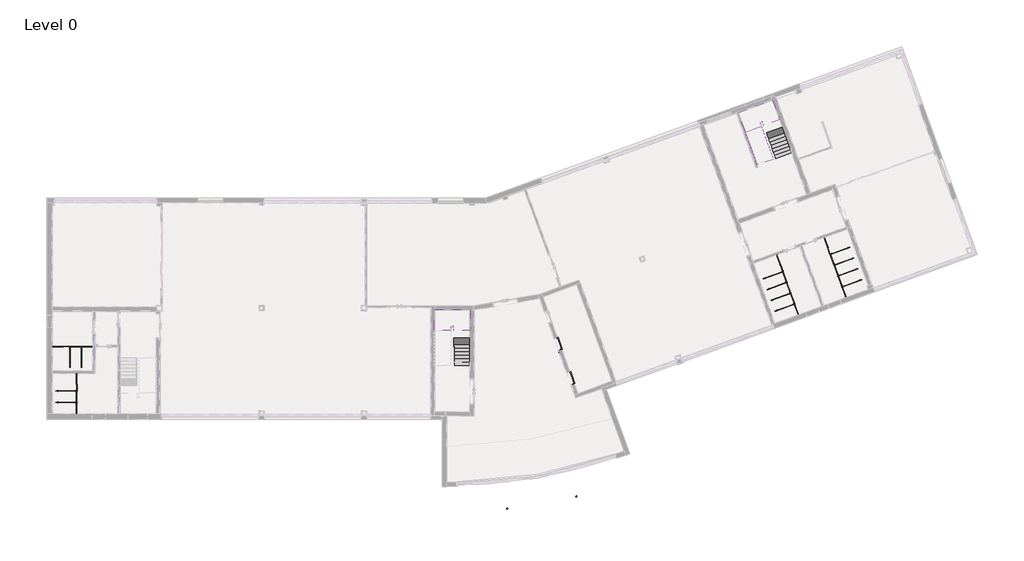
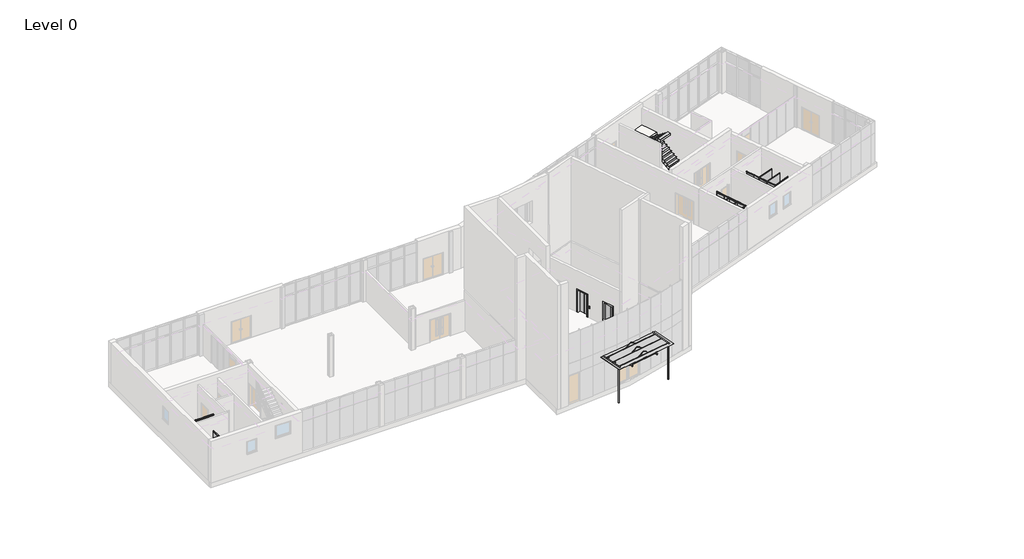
# One storey, part 14 of 14: 20 flow terminals, 3 proxies, 3 stair flights, 2 slabs.
"""IFC4 building model written with IfcOpenShell, lengths in millimetres."""

from ifc_helpers import new_model, si_unit, frame, origin, place, context, project, spatial, polyline, outline, extrude, faceted_brep, transform, mapped, element, save
from components import commercial_canopy_entrance_cladding_canopy_659b45ad, specialty_equipment_lift_assembly_13_person_wide_car_fb916a52, flow_terminal_2100mm_height_12b2e6eb, flow_terminal_2100mm_height_2c32aa6e, flow_terminal_2100mm_height_1f2eed72, flow_terminal_2100mm_height_0595ce71, flow_terminal_2100mm_height_6680c838, plumbing_fixtures_cubicle_corner_end_2100mm_height_8010d271, plumbing_fixtures_cubicle_corner_end_2100mm_height_71efdfa1

model = new_model("IFC4")

# Units and contexts
model_context = context("Model", 3, world=origin())
ifc_project = project(units=[si_unit("LENGTHUNIT", "METRE", prefix="MILLI")], contexts=[model_context])

# Site, building, storey
site = spatial("IfcSite", under=ifc_project)
building = spatial("IfcBuilding", under=site)
storey = spatial("IfcBuildingStorey", under=building, Name="Level 0", Elevation=0.0)

# Proxies
placement = place(None, origin())
commercial_canopy_entrance_cladding_canopy_shape = commercial_canopy_entrance_cladding_canopy_659b45ad(model_context)
element("IfcBuildingElementProxy", 1, Name="Commercial_Canopy_Entrance : Cladding_Canopy", ObjectType="Commercial_Canopy_Entrance : Cladding_Canopy", at=placement, inside=storey, context=model_context, shape_type="MappedRepresentation", body=[
    mapped(commercial_canopy_entrance_cladding_canopy_shape, transform((35218.8424739, -4156.0059595, 0.0), x_axis=(0.984821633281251, 0.1735694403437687, 0.0), y_axis=(-0.1735694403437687, 0.984821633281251, 0.0), z_axis=(0.0, 0.0, 1.0))),
])
specialty_equipment_lift_assembly_13_person_wide_car_shape = specialty_equipment_lift_assembly_13_person_wide_car_fb916a52(model_context)
element("IfcBuildingElementProxy", 2, Name="Specialty_Equipment_Lift_Assembly : 13_Person-Wide_Car", ObjectType="Specialty_Equipment_Lift_Assembly : 13_Person-Wide_Car", at=placement, inside=storey, context=model_context, shape_type="MappedRepresentation", body=[
    mapped(specialty_equipment_lift_assembly_13_person_wide_car_shape, transform((36402.6729068, 5528.4769863, 0.0), x_axis=(-0.34202014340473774, 0.9396926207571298, 0.0), y_axis=(-0.9396926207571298, -0.34202014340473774, 0.0), z_axis=(0.0, 0.0, 1.0))),
])
element("IfcBuildingElementProxy", 3, Name="Specialty_Equipment_Lift_Assembly : 13_Person-Wide_Car", ObjectType="Specialty_Equipment_Lift_Assembly : 13_Person-Wide_Car", at=placement, inside=storey, context=model_context, shape_type="MappedRepresentation", body=[
    mapped(specialty_equipment_lift_assembly_13_person_wide_car_shape, transform((37291.5468022, 3086.3160308, 0.0), x_axis=(-0.34202014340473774, 0.9396926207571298, 0.0), y_axis=(-0.9396926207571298, -0.34202014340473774, 0.0), z_axis=(0.0, 0.0, 1.0))),
])

# Flow terminals
flow_terminal_2100mm_height_shape = flow_terminal_2100mm_height_12b2e6eb(model_context)
element("IfcFlowTerminal", 4, ObjectType="Plumbing_Fixtures_Toilet_Cubicle_End_Adjacent_Wall : 2100mm_Height", at=placement, inside=storey, context=model_context, shape_type="MappedRepresentation", body=[
    mapped(flow_terminal_2100mm_height_shape, transform((50541.393351, 10685.9180507, 0.0), x_axis=(-0.3420201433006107, 0.9396926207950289, 0.0), y_axis=(-0.9396926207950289, -0.3420201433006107, 0.0), z_axis=(0.0, 0.0, 1.0))),
])
element("IfcFlowTerminal", 5, ObjectType="Plumbing_Fixtures_Toilet_Cubicle_End_Adjacent_Wall : 2100mm_Height", at=placement, inside=storey, context=model_context, shape_type="MappedRepresentation", body=[
    mapped(flow_terminal_2100mm_height_shape, transform((383.0, 2814.5689301, 0.0), x_axis=(2.5442148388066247e-11, 1.0, 0.0), y_axis=(-1.0, 2.5442148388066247e-11, 0.0), z_axis=(0.0, 0.0, 1.0))),
])
element("IfcFlowTerminal", 6, ObjectType="Plumbing_Fixtures_Toilet_Cubicle_End_Adjacent_Wall : 2100mm_Height", at=placement, inside=storey, context=model_context, shape_type="MappedRepresentation", body=[
    mapped(flow_terminal_2100mm_height_shape, transform((830.9310712, 3326.5000005, 0.0), x_axis=(-1.0, 2.5443536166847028e-11, 0.0), y_axis=(-2.5443536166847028e-11, -1.0, 0.0), z_axis=(0.0, 0.0, 1.0))),
])
flow_terminal_2100mm_height_2_shape = flow_terminal_2100mm_height_2c32aa6e(model_context)
element("IfcFlowTerminal", 7, ObjectType="Plumbing_Fixtures_Toilet_Cubicle_End_Adjacent_Wall : 2100mm_Height", at=placement, inside=storey, context=model_context, shape_type="MappedRepresentation", body=[
    mapped(flow_terminal_2100mm_height_2_shape, transform((57283.6879051, 13139.9125789, 0.0), x_axis=(-0.3420201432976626, 0.9396926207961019, 0.0), y_axis=(-0.9396926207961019, -0.3420201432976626, 0.0), z_axis=(0.0, 0.0, 1.0))),
])
flow_terminal_2100mm_height_3_shape = flow_terminal_2100mm_height_1f2eed72(model_context)
element("IfcFlowTerminal", 8, ObjectType="Plumbing_Fixtures_Toile_Cubicle_Extension_Panel : 2100mm_Height", at=placement, inside=storey, context=model_context, shape_type="MappedRepresentation", body=[
    mapped(flow_terminal_2100mm_height_3_shape, transform((50976.9218015, 9489.3134675, 0.0), x_axis=(-0.34202014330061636, 0.9396926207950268, 0.0), y_axis=(-0.9396926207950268, -0.34202014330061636, 0.0), z_axis=(0.0, 0.0, 1.0))),
])
flow_terminal_2100mm_height_4_shape = flow_terminal_2100mm_height_0595ce71(model_context)
element("IfcFlowTerminal", 9, ObjectType="Plumbing_Fixtures_Toile_Cubicle_Extension_Panel : 2100mm_Height", at=placement, inside=storey, context=model_context, shape_type="MappedRepresentation", body=[
    mapped(flow_terminal_2100mm_height_4_shape, transform((57719.2163556, 11943.3079956, 0.0), x_axis=(-0.3420201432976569, 0.9396926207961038, 0.0), y_axis=(-0.9396926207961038, -0.3420201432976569, 0.0), z_axis=(0.0, 0.0, 1.0))),
])
flow_terminal_2100mm_height_5_shape = flow_terminal_2100mm_height_6680c838(model_context)
element("IfcFlowTerminal", 10, ObjectType="Plumbing_Fixtures_Toile_Cubicle_Extension_Panel : 2100mm_Height", at=placement, inside=storey, context=model_context, shape_type="MappedRepresentation", body=[
    mapped(flow_terminal_2100mm_height_5_shape, transform((383.0, 1565.0689299, 0.0), x_axis=(0.0, 1.0, 0.0), y_axis=(-1.0, 0.0, 0.0), z_axis=(0.0, 0.0, 1.0))),
])
element("IfcFlowTerminal", 11, ObjectType="Plumbing_Fixtures_Toile_Cubicle_Extension_Panel : 2100mm_Height", at=placement, inside=storey, context=model_context, shape_type="MappedRepresentation", body=[
    mapped(flow_terminal_2100mm_height_5_shape, transform((2080.4310713, 3326.5000005, 0.0), x_axis=(-1.0, 0.0, 0.0), y_axis=(0.0, -1.0, 0.0), z_axis=(0.0, 0.0, 1.0))),
])
plumbing_fixtures_cubicle_corner_end_2100mm_height_shape = plumbing_fixtures_cubicle_corner_end_2100mm_height_8010d271(model_context)
element("IfcFlowTerminal", 12, ObjectType="Plumbing_Fixtures_Cubicle_Corner_End : 2100mm_Height", at=placement, inside=storey, context=model_context, shape_type="MappedRepresentation", body=[
    mapped(plumbing_fixtures_cubicle_corner_end_2100mm_height_shape, transform((58572.2617435, 9599.5850544, 0.0), x_axis=(0.3420201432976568, -0.9396926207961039, 0.0), y_axis=(0.9396926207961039, 0.3420201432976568, 0.0), z_axis=(0.0, 0.0, 1.0))),
])
element("IfcFlowTerminal", 13, ObjectType="Plumbing_Fixtures_Cubicle_Corner_End : 2100mm_Height", at=placement, inside=storey, context=model_context, shape_type="MappedRepresentation", body=[
    mapped(plumbing_fixtures_cubicle_corner_end_2100mm_height_shape, transform((58291.805226, 10370.1330034, 0.0), x_axis=(0.3420201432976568, -0.9396926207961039, 0.0), y_axis=(0.9396926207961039, 0.3420201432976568, 0.0), z_axis=(0.0, 0.0, 1.0))),
])
element("IfcFlowTerminal", 14, ObjectType="Plumbing_Fixtures_Cubicle_Corner_End : 2100mm_Height", at=placement, inside=storey, context=model_context, shape_type="MappedRepresentation", body=[
    mapped(plumbing_fixtures_cubicle_corner_end_2100mm_height_shape, transform((58011.3487085, 11140.6809525, 0.0), x_axis=(0.3420201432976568, -0.9396926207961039, 0.0), y_axis=(0.9396926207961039, 0.3420201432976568, 0.0), z_axis=(0.0, 0.0, 1.0))),
])
element("IfcFlowTerminal", 15, ObjectType="Plumbing_Fixtures_Cubicle_Corner_End : 2100mm_Height", at=placement, inside=storey, context=model_context, shape_type="MappedRepresentation", body=[
    mapped(plumbing_fixtures_cubicle_corner_end_2100mm_height_shape, transform((57730.892191, 11911.2289015, 0.0), x_axis=(0.3420201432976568, -0.9396926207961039, 0.0), y_axis=(0.9396926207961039, 0.3420201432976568, 0.0), z_axis=(0.0, 0.0, 1.0))),
])
plumbing_fixtures_cubicle_corner_end_2100mm_height_2_shape = plumbing_fixtures_cubicle_corner_end_2100mm_height_71efdfa1(model_context)
element("IfcFlowTerminal", 16, ObjectType="Plumbing_Fixtures_Cubicle_Corner_End : 2100mm_Height", at=placement, inside=storey, context=model_context, shape_type="MappedRepresentation", body=[
    mapped(plumbing_fixtures_cubicle_corner_end_2100mm_height_2_shape, transform((51829.9671894, 7145.5905262, 0.0), x_axis=(0.3420201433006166, -0.9396926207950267, 0.0), y_axis=(0.9396926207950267, 0.3420201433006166, 0.0), z_axis=(0.0, 0.0, 1.0))),
])
element("IfcFlowTerminal", 17, ObjectType="Plumbing_Fixtures_Cubicle_Corner_End : 2100mm_Height", at=placement, inside=storey, context=model_context, shape_type="MappedRepresentation", body=[
    mapped(plumbing_fixtures_cubicle_corner_end_2100mm_height_2_shape, transform((51549.5106719, 7916.1384753, 0.0), x_axis=(0.3420201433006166, -0.9396926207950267, 0.0), y_axis=(0.9396926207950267, 0.3420201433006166, 0.0), z_axis=(0.0, 0.0, 1.0))),
])
element("IfcFlowTerminal", 18, ObjectType="Plumbing_Fixtures_Cubicle_Corner_End : 2100mm_Height", at=placement, inside=storey, context=model_context, shape_type="MappedRepresentation", body=[
    mapped(plumbing_fixtures_cubicle_corner_end_2100mm_height_2_shape, transform((51269.0541544, 8686.6864243, 0.0), x_axis=(0.3420201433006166, -0.9396926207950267, 0.0), y_axis=(0.9396926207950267, 0.3420201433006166, 0.0), z_axis=(0.0, 0.0, 1.0))),
])
element("IfcFlowTerminal", 19, ObjectType="Plumbing_Fixtures_Cubicle_Corner_End : 2100mm_Height", at=placement, inside=storey, context=model_context, shape_type="MappedRepresentation", body=[
    mapped(plumbing_fixtures_cubicle_corner_end_2100mm_height_2_shape, transform((50988.5976369, 9457.2343734, 0.0), x_axis=(0.3420201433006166, -0.9396926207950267, 0.0), y_axis=(0.9396926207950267, 0.3420201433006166, 0.0), z_axis=(0.0, 0.0, 1.0))),
])
element("IfcFlowTerminal", 20, ObjectType="Plumbing_Fixtures_Cubicle_Corner_End : 2100mm_Height", at=placement, inside=storey, context=model_context, shape_type="MappedRepresentation", body=[
    mapped(plumbing_fixtures_cubicle_corner_end_2100mm_height_2_shape, transform((383.0, 710.9310711, 0.0), x_axis=(-2.5442148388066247e-11, -1.0, 0.0), y_axis=(1.0, -2.5442148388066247e-11, 0.0), z_axis=(0.0, 0.0, 1.0))),
])
element("IfcFlowTerminal", 21, ObjectType="Plumbing_Fixtures_Cubicle_Corner_End : 2100mm_Height", at=placement, inside=storey, context=model_context, shape_type="MappedRepresentation", body=[
    mapped(plumbing_fixtures_cubicle_corner_end_2100mm_height_2_shape, transform((383.0, 1530.9310711, 0.0), x_axis=(-2.5442148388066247e-11, -1.0, 0.0), y_axis=(1.0, -2.5442148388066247e-11, 0.0), z_axis=(0.0, 0.0, 1.0))),
])
element("IfcFlowTerminal", 22, ObjectType="Plumbing_Fixtures_Cubicle_Corner_End : 2100mm_Height", at=placement, inside=storey, context=model_context, shape_type="MappedRepresentation", body=[
    mapped(plumbing_fixtures_cubicle_corner_end_2100mm_height_2_shape, transform((2934.5689301, 3326.5000005, 0.0), x_axis=(1.0, -2.5443536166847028e-11, 0.0), y_axis=(2.5443536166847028e-11, 1.0, 0.0), z_axis=(0.0, 0.0, 1.0))),
])
element("IfcFlowTerminal", 23, ObjectType="Plumbing_Fixtures_Cubicle_Corner_End : 2100mm_Height", at=placement, inside=storey, context=model_context, shape_type="MappedRepresentation", body=[
    mapped(plumbing_fixtures_cubicle_corner_end_2100mm_height_2_shape, transform((2114.5689301, 3326.5000005, 0.0), x_axis=(1.0, -2.5443536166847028e-11, 0.0), y_axis=(2.5443536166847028e-11, 1.0, 0.0), z_axis=(0.0, 0.0, 1.0))),
])

# Slabs
element("IfcSlab", 24, ObjectType="200mm_Thickness", at=placement, inside=storey, context=model_context, shape_type="SolidModel", body=[
    faceted_brep([(29052.2000029, 6263.2000006, 1949.0), (30252.200003, 6263.2000006, 1949.0), (30252.200003, 6490.4719159, 1949.0), (30252.200003, 7763.2000004, 1949.0), (27662.2000031, 7763.2000004, 1949.0), (27662.2000031, 6285.9280852, 1949.0), (27662.2000031, 6263.2000006, 1949.0), (28862.2000029, 6263.2000006, 1949.0), (28862.2000029, 6285.9280852, 1949.0), (28862.2000029, 6563.2000006, 1949.0), (29052.2000029, 6563.2000006, 1949.0), (29052.2000029, 6490.4719159, 1949.0), (29052.2000029, 6263.2000006, 1587.8435509), (29052.2000029, 6263.2000006, 1771.7272727), (29052.2000029, 6563.2000006, 1749.0), (29052.2000029, 6490.4719159, 1749.0), (30252.200003, 6263.2000006, 1771.7272727), (30252.200003, 6263.2000006, 1587.8435509), (30252.200003, 6490.4719159, 1749.0), (30252.200003, 7763.2000004, 1749.0), (28862.2000029, 6263.2000006, 1765.1162782), (28862.2000029, 6285.9280852, 1749.0), (28862.2000029, 6563.2000006, 1749.0), (27662.2000031, 6285.9280852, 1749.0), (27662.2000031, 7763.2000004, 1749.0), (27662.2000031, 6263.2000006, 1765.1162782)], [[[0, 1, 2, 3, 4, 5, 6, 7, 8, 9, 10, 11]], [[12, 13, 0, 11, 10, 14, 15]], [[1, 16, 17, 18, 19, 3, 2]], [[7, 20, 21, 22, 9, 8]], [[18, 15, 14, 22, 21, 23, 24, 19]], [[15, 18, 17, 12]], [[23, 21, 20, 25]], [[1, 0, 13, 12, 17, 16]], [[4, 3, 19, 24]], [[4, 24, 23, 25, 6, 5]], [[7, 6, 25, 20]], [[10, 9, 22, 14]]]),
    extrude(outline(polyline([(29052.2000029, 6263.2000006), (29052.2000029, 6563.2000006), (28862.2000029, 6563.2000006), (28862.2000029, 6263.2000006), (27662.2000031, 6263.2000006), (27662.2000031, 7763.2000004), (30252.200003, 7763.2000004), (30252.200003, 6263.2000006), (29052.2000029, 6263.2000006)])), frame((0.0, 0.0, 1949.0), z_axis=(0.0, 0.0, 1.0), x_axis=(1.0, 0.0, 0.0)), (0.0, 0.0, 1.0), 1.0),
])
element("IfcSlab", 25, ObjectType="200mm_Thickness", at=placement, inside=storey, context=model_context, shape_type="SolidModel", body=[
    faceted_brep([(51174.021156, 20890.1085605, 1949.0), (52301.652301, 21300.5327324, 1949.0), (52223.920728, 21514.0984742, 1949.0), (51788.6220861, 22710.0716635, 1949.0), (49354.8181983, 21824.2394924, 1949.0), (49860.0749505, 20436.0579748, 1949.0), (49867.8484132, 20414.7005613, 1949.0), (50995.479558, 20825.1247332, 1949.0), (50987.7060952, 20846.4821467, 1949.0), (50892.873515, 21107.0325195, 1949.0), (51071.415113, 21172.0163467, 1949.0), (51096.2895829, 21103.6743022, 1949.0), (51174.021156, 20890.1085605, 1587.8435509), (51174.021156, 20890.1085605, 1771.7272727), (51071.415113, 21172.0163467, 1749.0), (51096.2895829, 21103.6743022, 1749.0), (52301.652301, 21300.5327324, 1771.7272727), (52301.652301, 21300.5327324, 1587.8435509), (52223.920728, 21514.0984742, 1749.0), (51788.6220861, 22710.0716635, 1749.0), (50995.479558, 20825.1247332, 1765.1162782), (50987.7060952, 20846.4821467, 1749.0), (50892.873515, 21107.0325195, 1749.0), (49860.0749505, 20436.0579748, 1749.0), (49354.8181983, 21824.2394924, 1749.0), (49867.8484132, 20414.7005613, 1765.1162782)], [[[0, 1, 2, 3, 4, 5, 6, 7, 8, 9, 10, 11]], [[12, 13, 0, 11, 10, 14, 15]], [[1, 16, 17, 18, 19, 3, 2]], [[7, 20, 21, 22, 9, 8]], [[18, 15, 14, 22, 21, 23, 24, 19]], [[15, 18, 17, 12]], [[23, 21, 20, 25]], [[1, 0, 13, 12, 17, 16]], [[4, 3, 19, 24]], [[4, 24, 23, 25, 6, 5]], [[7, 6, 25, 20]], [[10, 9, 22, 14]]]),
    extrude(outline(polyline([(51174.021156, 20890.1085605), (51071.415113, 21172.0163467), (50892.873515, 21107.0325195), (50995.479558, 20825.1247332), (49867.8484132, 20414.7005613), (49354.8181983, 21824.2394924), (51788.6220861, 22710.0716635), (52301.652301, 21300.5327324), (51174.021156, 20890.1085605)])), frame((0.0, 0.0, 1949.0), z_axis=(0.0, 0.0, 1.0), x_axis=(1.0, 0.0, 0.0)), (0.0, 0.0, 1.0), 1.0),
])

# Stair flights
element("IfcStairFlight", 26, ObjectType="1mm_Tread-150mm_Depth", at=placement, inside=storey, context=model_context, shape_type="SolidModel", body=[
    faceted_brep([(29052.2000029, 4013.2000006, 176.2727273), (29052.2000029, 3763.2000006, 176.2727273), (30252.200003, 3763.2000006, 176.2727273), (30252.200003, 4013.2000006, 176.2727273), (29052.2000029, 4013.2000006, 0.0), (29052.2000029, 3763.2000006, 0.0), (30252.200003, 3763.2000006, 0.0), (30252.200003, 4013.2000006, 0.0), (29052.2000029, 4263.2000006, 353.5454545), (29052.2000029, 4013.2000006, 353.5454545), (30252.200003, 4013.2000006, 353.5454545), (30252.200003, 4263.2000006, 353.5454545), (29052.2000029, 4263.2000006, 169.6617328), (29052.2000029, 4023.9334544, 0.0), (30252.200003, 4023.9334544, 0.0), (30252.200003, 4263.2000006, 169.6617328), (29052.2000029, 4513.2000006, 530.8181818), (29052.2000029, 4263.2000006, 530.8181818), (30252.200003, 4263.2000006, 530.8181818), (30252.200003, 4513.2000006, 530.8181818), (29052.2000029, 4513.2000006, 346.93446), (30252.200003, 4513.2000006, 346.93446), (29052.2000029, 4763.2000006, 708.0909091), (29052.2000029, 4513.2000006, 708.0909091), (30252.200003, 4513.2000006, 708.0909091), (30252.200003, 4763.2000006, 708.0909091), (29052.2000029, 4763.2000006, 524.2071873), (30252.200003, 4763.2000006, 524.2071873), (29052.2000029, 5013.2000006, 885.3636364), (29052.2000029, 4763.2000006, 885.3636364), (30252.200003, 4763.2000006, 885.3636364), (30252.200003, 5013.2000006, 885.3636364), (29052.2000029, 5013.2000006, 701.4799146), (30252.200003, 5013.2000006, 701.4799146), (29052.2000029, 5263.2000006, 1062.6363636), (29052.2000029, 5013.2000006, 1062.6363636), (30252.200003, 5013.2000006, 1062.6363636), (30252.200003, 5263.2000006, 1062.6363636), (29052.2000029, 5263.2000006, 878.7526418), (30252.200003, 5263.2000006, 878.7526418), (29052.2000029, 5513.2000006, 1239.9090909), (29052.2000029, 5263.2000006, 1239.9090909), (30252.200003, 5263.2000006, 1239.9090909), (30252.200003, 5513.2000006, 1239.9090909), (29052.2000029, 5513.2000006, 1056.0253691), (30252.200003, 5513.2000006, 1056.0253691), (29052.2000029, 5763.2000006, 1417.1818182), (29052.2000029, 5513.2000006, 1417.1818182), (30252.200003, 5513.2000006, 1417.1818182), (30252.200003, 5763.2000006, 1417.1818182), (29052.2000029, 5763.2000006, 1233.2980964), (30252.200003, 5763.2000006, 1233.2980964), (29052.2000029, 6013.2000006, 1594.4545455), (29052.2000029, 5763.2000006, 1594.4545455), (30252.200003, 5763.2000006, 1594.4545455), (30252.200003, 6013.2000006, 1594.4545455), (29052.2000029, 6013.2000006, 1410.5708237), (30252.200003, 6013.2000006, 1410.5708237), (29052.2000029, 6263.2000006, 1587.8435509), (30252.200003, 6263.2000006, 1587.8435509), (29052.2000029, 6263.2000006, 1771.7272727), (29052.2000029, 6013.2000006, 1771.7272727), (30252.200003, 6013.2000006, 1771.7272727), (30252.200003, 6263.2000006, 1771.7272727)], [[[0, 1, 2, 3]], [[1, 0, 4, 5]], [[2, 1, 5, 6]], [[3, 2, 6, 7]], [[8, 9, 10, 11]], [[4, 0, 9, 8, 12, 13]], [[0, 3, 10, 9]], [[3, 7, 14, 15, 11, 10]], [[16, 17, 18, 19]], [[17, 16, 20, 12, 8]], [[8, 11, 18, 17]], [[19, 18, 11, 15, 21]], [[22, 23, 24, 25]], [[23, 22, 26, 20, 16]], [[16, 19, 24, 23]], [[25, 24, 19, 21, 27]], [[28, 29, 30, 31]], [[29, 28, 32, 26, 22]], [[22, 25, 30, 29]], [[31, 30, 25, 27, 33]], [[34, 35, 36, 37]], [[35, 34, 38, 32, 28]], [[28, 31, 36, 35]], [[37, 36, 31, 33, 39]], [[40, 41, 42, 43]], [[41, 40, 44, 38, 34]], [[34, 37, 42, 41]], [[43, 42, 37, 39, 45]], [[46, 47, 48, 49]], [[47, 46, 50, 44, 40]], [[40, 43, 48, 47]], [[49, 48, 43, 45, 51]], [[52, 53, 54, 55]], [[53, 52, 56, 50, 46]], [[46, 49, 54, 53]], [[55, 54, 49, 51, 57]], [[5, 4, 13, 14, 7, 6]], [[14, 13, 12, 20, 26, 32, 38, 44, 50, 56, 58, 59, 57, 51, 45, 39, 33, 27, 21, 15]], [[60, 61, 62, 63]], [[61, 60, 58, 56, 52]], [[52, 55, 62, 61]], [[63, 62, 55, 57, 59]], [[60, 63, 59, 58]]]),
    extrude(outline(polyline([(29052.2000029, 4013.2000006), (30252.200003, 4013.2000006), (30252.200003, 3763.2000006), (29052.2000029, 3763.2000006), (29052.2000029, 4013.2000006)])), frame((0.0, 0.0, 176.2727273), z_axis=(0.0, 0.0, 1.0), x_axis=(1.0, 0.0, 0.0)), (0.0, 0.0, 1.0), 1.0),
    extrude(outline(polyline([(29052.2000029, 4263.2000006), (30252.200003, 4263.2000006), (30252.200003, 4013.2000006), (29052.2000029, 4013.2000006), (29052.2000029, 4263.2000006)])), frame((0.0, 0.0, 353.5454545), z_axis=(0.0, 0.0, 1.0), x_axis=(1.0, 0.0, 0.0)), (0.0, 0.0, 1.0), 1.0),
    extrude(outline(polyline([(29052.2000029, 4513.2000006), (30252.200003, 4513.2000006), (30252.200003, 4263.2000006), (29052.2000029, 4263.2000006), (29052.2000029, 4513.2000006)])), frame((0.0, 0.0, 530.8181818), z_axis=(0.0, 0.0, 1.0), x_axis=(1.0, 0.0, 0.0)), (0.0, 0.0, 1.0), 1.0),
    extrude(outline(polyline([(29052.2000029, 4763.2000006), (30252.200003, 4763.2000006), (30252.200003, 4513.2000006), (29052.2000029, 4513.2000006), (29052.2000029, 4763.2000006)])), frame((0.0, 0.0, 708.0909091), z_axis=(0.0, 0.0, 1.0), x_axis=(1.0, 0.0, 0.0)), (0.0, 0.0, 1.0), 1.0),
    extrude(outline(polyline([(29052.2000029, 5013.2000006), (30252.200003, 5013.2000006), (30252.200003, 4763.2000006), (29052.2000029, 4763.2000006), (29052.2000029, 5013.2000006)])), frame((0.0, 0.0, 885.3636364), z_axis=(0.0, 0.0, 1.0), x_axis=(1.0, 0.0, 0.0)), (0.0, 0.0, 1.0), 1.0),
    extrude(outline(polyline([(29052.2000029, 5263.2000006), (30252.200003, 5263.2000006), (30252.200003, 5013.2000006), (29052.2000029, 5013.2000006), (29052.2000029, 5263.2000006)])), frame((0.0, 0.0, 1062.6363636), z_axis=(0.0, 0.0, 1.0), x_axis=(1.0, 0.0, 0.0)), (0.0, 0.0, 1.0), 1.0),
    extrude(outline(polyline([(29052.2000029, 5513.2000006), (30252.200003, 5513.2000006), (30252.200003, 5263.2000006), (29052.2000029, 5263.2000006), (29052.2000029, 5513.2000006)])), frame((0.0, 0.0, 1239.9090909), z_axis=(0.0, 0.0, 1.0), x_axis=(1.0, 0.0, 0.0)), (0.0, 0.0, 1.0), 1.0),
    extrude(outline(polyline([(29052.2000029, 5763.2000006), (30252.200003, 5763.2000006), (30252.200003, 5513.2000006), (29052.2000029, 5513.2000006), (29052.2000029, 5763.2000006)])), frame((0.0, 0.0, 1417.1818182), z_axis=(0.0, 0.0, 1.0), x_axis=(1.0, 0.0, 0.0)), (0.0, 0.0, 1.0), 1.0),
    extrude(outline(polyline([(29052.2000029, 6013.2000006), (30252.200003, 6013.2000006), (30252.200003, 5763.2000006), (29052.2000029, 5763.2000006), (29052.2000029, 6013.2000006)])), frame((0.0, 0.0, 1594.4545455), z_axis=(0.0, 0.0, 1.0), x_axis=(1.0, 0.0, 0.0)), (0.0, 0.0, 1.0), 1.0),
    extrude(outline(polyline([(29052.2000029, 6263.2000006), (30252.200003, 6263.2000006), (30252.200003, 6013.2000006), (29052.2000029, 6013.2000006), (29052.2000029, 6263.2000006)])), frame((0.0, 0.0, 1771.7272727), z_axis=(0.0, 0.0, 1.0), x_axis=(1.0, 0.0, 0.0)), (0.0, 0.0, 1.0), 1.0),
])
element("IfcStairFlight", 27, ObjectType="1mm_Tread-150mm_Depth", at=placement, inside=storey, context=model_context, shape_type="SolidModel", body=[
    faceted_brep([(51943.5664784, 18775.8001637, 176.2727273), (52029.0715142, 18540.8770085, 176.2727273), (53156.7026593, 18951.3011804, 176.2727273), (53071.1976234, 19186.2243356, 176.2727273), (51943.5664784, 18775.8001637, 0.0), (52029.0715142, 18540.8770085, 0.0), (53156.7026593, 18951.3011804, 0.0), (53071.1976234, 19186.2243356, 0.0), (51858.0614426, 19010.7233189, 353.5454545), (51943.5664784, 18775.8001637, 353.5454545), (53071.1976234, 19186.2243356, 353.5454545), (52985.6925876, 19421.1474908, 353.5454545), (51858.0614426, 19010.7233189, 169.6617328), (51939.895421, 18785.886311, 0.0), (53067.526566, 19196.310483, 0.0), (52985.6925876, 19421.1474908, 169.6617328), (51772.5564067, 19245.6464741, 530.8181818), (51858.0614426, 19010.7233189, 530.8181818), (52985.6925876, 19421.1474908, 530.8181818), (52900.1875518, 19656.070646, 530.8181818), (51772.5564067, 19245.6464741, 346.93446), (52900.1875518, 19656.070646, 346.93446), (51687.0513709, 19480.5696293, 708.0909091), (51772.5564067, 19245.6464741, 708.0909091), (52900.1875518, 19656.070646, 708.0909091), (52814.682516, 19890.9938012, 708.0909091), (51687.0513709, 19480.5696293, 524.2071873), (52814.682516, 19890.9938012, 524.2071873), (51601.5463351, 19715.4927845, 885.3636364), (51687.0513709, 19480.5696293, 885.3636364), (52814.682516, 19890.9938012, 885.3636364), (52729.1774801, 20125.9169564, 885.3636364), (51601.5463351, 19715.4927845, 701.4799146), (52729.1774801, 20125.9169564, 701.4799146), (51516.0412993, 19950.4159397, 1062.6363636), (51601.5463351, 19715.4927845, 1062.6363636), (52729.1774801, 20125.9169564, 1062.6363636), (52643.6724443, 20360.8401116, 1062.6363636), (51516.0412993, 19950.4159397, 878.7526418), (52643.6724443, 20360.8401116, 878.7526418), (51430.5362634, 20185.3390949, 1239.9090909), (51516.0412993, 19950.4159397, 1239.9090909), (52643.6724443, 20360.8401116, 1239.9090909), (52558.1674085, 20595.7632668, 1239.9090909), (51430.5362634, 20185.3390949, 1056.0253691), (52558.1674085, 20595.7632668, 1056.0253691), (51345.0312276, 20420.2622501, 1417.1818182), (51430.5362634, 20185.3390949, 1417.1818182), (52558.1674085, 20595.7632668, 1417.1818182), (52472.6623727, 20830.686422, 1417.1818182), (51345.0312276, 20420.2622501, 1233.2980964), (52472.6623727, 20830.686422, 1233.2980964), (51259.5261918, 20655.1854053, 1594.4545455), (51345.0312276, 20420.2622501, 1594.4545455), (52472.6623727, 20830.686422, 1594.4545455), (52387.1573368, 21065.6095772, 1594.4545455), (51259.5261918, 20655.1854053, 1410.5708237), (52387.1573368, 21065.6095772, 1410.5708237), (51174.021156, 20890.1085605, 1587.8435509), (52301.652301, 21300.5327324, 1587.8435509), (51174.021156, 20890.1085605, 1771.7272727), (51259.5261918, 20655.1854053, 1771.7272727), (52387.1573368, 21065.6095772, 1771.7272727), (52301.652301, 21300.5327324, 1771.7272727)], [[[0, 1, 2, 3]], [[1, 0, 4, 5]], [[2, 1, 5, 6]], [[3, 2, 6, 7]], [[8, 9, 10, 11]], [[4, 0, 9, 8, 12, 13]], [[0, 3, 10, 9]], [[3, 7, 14, 15, 11, 10]], [[16, 17, 18, 19]], [[17, 16, 20, 12, 8]], [[8, 11, 18, 17]], [[19, 18, 11, 15, 21]], [[22, 23, 24, 25]], [[23, 22, 26, 20, 16]], [[16, 19, 24, 23]], [[25, 24, 19, 21, 27]], [[28, 29, 30, 31]], [[29, 28, 32, 26, 22]], [[22, 25, 30, 29]], [[31, 30, 25, 27, 33]], [[34, 35, 36, 37]], [[35, 34, 38, 32, 28]], [[28, 31, 36, 35]], [[37, 36, 31, 33, 39]], [[40, 41, 42, 43]], [[41, 40, 44, 38, 34]], [[34, 37, 42, 41]], [[43, 42, 37, 39, 45]], [[46, 47, 48, 49]], [[47, 46, 50, 44, 40]], [[40, 43, 48, 47]], [[49, 48, 43, 45, 51]], [[52, 53, 54, 55]], [[53, 52, 56, 50, 46]], [[46, 49, 54, 53]], [[55, 54, 49, 51, 57]], [[5, 4, 13, 14, 7, 6]], [[14, 13, 12, 20, 26, 32, 38, 44, 50, 56, 58, 59, 57, 51, 45, 39, 33, 27, 21, 15]], [[60, 61, 62, 63]], [[61, 60, 58, 56, 52]], [[52, 55, 62, 61]], [[63, 62, 55, 57, 59]], [[60, 63, 59, 58]]]),
    extrude(outline(polyline([(51943.5664784, 18775.8001637), (53071.1976234, 19186.2243356), (53156.7026593, 18951.3011804), (52029.0715142, 18540.8770085), (51943.5664784, 18775.8001637)])), frame((0.0, 0.0, 176.2727273), z_axis=(0.0, 0.0, 1.0), x_axis=(1.0, 0.0, 0.0)), (0.0, 0.0, 1.0), 1.0),
    extrude(outline(polyline([(51858.0614426, 19010.7233189), (52985.6925876, 19421.1474908), (53071.1976234, 19186.2243356), (51943.5664784, 18775.8001637), (51858.0614426, 19010.7233189)])), frame((0.0, 0.0, 353.5454545), z_axis=(0.0, 0.0, 1.0), x_axis=(1.0, 0.0, 0.0)), (0.0, 0.0, 1.0), 1.0),
    extrude(outline(polyline([(51772.5564067, 19245.6464741), (52900.1875518, 19656.070646), (52985.6925876, 19421.1474908), (51858.0614426, 19010.7233189), (51772.5564067, 19245.6464741)])), frame((0.0, 0.0, 530.8181818), z_axis=(0.0, 0.0, 1.0), x_axis=(1.0, 0.0, 0.0)), (0.0, 0.0, 1.0), 1.0),
    extrude(outline(polyline([(51687.0513709, 19480.5696293), (52814.682516, 19890.9938012), (52900.1875518, 19656.070646), (51772.5564067, 19245.6464741), (51687.0513709, 19480.5696293)])), frame((0.0, 0.0, 708.0909091), z_axis=(0.0, 0.0, 1.0), x_axis=(1.0, 0.0, 0.0)), (0.0, 0.0, 1.0), 1.0),
    extrude(outline(polyline([(51601.5463351, 19715.4927845), (52729.1774801, 20125.9169564), (52814.682516, 19890.9938012), (51687.0513709, 19480.5696293), (51601.5463351, 19715.4927845)])), frame((0.0, 0.0, 885.3636364), z_axis=(0.0, 0.0, 1.0), x_axis=(1.0, 0.0, 0.0)), (0.0, 0.0, 1.0), 1.0),
    extrude(outline(polyline([(51516.0412993, 19950.4159397), (52643.6724443, 20360.8401116), (52729.1774801, 20125.9169564), (51601.5463351, 19715.4927845), (51516.0412993, 19950.4159397)])), frame((0.0, 0.0, 1062.6363636), z_axis=(0.0, 0.0, 1.0), x_axis=(1.0, 0.0, 0.0)), (0.0, 0.0, 1.0), 1.0),
    extrude(outline(polyline([(51430.5362634, 20185.3390949), (52558.1674085, 20595.7632668), (52643.6724443, 20360.8401116), (51516.0412993, 19950.4159397), (51430.5362634, 20185.3390949)])), frame((0.0, 0.0, 1239.9090909), z_axis=(0.0, 0.0, 1.0), x_axis=(1.0, 0.0, 0.0)), (0.0, 0.0, 1.0), 1.0),
    extrude(outline(polyline([(51345.0312276, 20420.2622501), (52472.6623727, 20830.686422), (52558.1674085, 20595.7632668), (51430.5362634, 20185.3390949), (51345.0312276, 20420.2622501)])), frame((0.0, 0.0, 1417.1818182), z_axis=(0.0, 0.0, 1.0), x_axis=(1.0, 0.0, 0.0)), (0.0, 0.0, 1.0), 1.0),
    extrude(outline(polyline([(51259.5261918, 20655.1854053), (52387.1573368, 21065.6095772), (52472.6623727, 20830.686422), (51345.0312276, 20420.2622501), (51259.5261918, 20655.1854053)])), frame((0.0, 0.0, 1594.4545455), z_axis=(0.0, 0.0, 1.0), x_axis=(1.0, 0.0, 0.0)), (0.0, 0.0, 1.0), 1.0),
    extrude(outline(polyline([(51174.021156, 20890.1085605), (52301.652301, 21300.5327324), (52387.1573368, 21065.6095772), (51259.5261918, 20655.1854053), (51174.021156, 20890.1085605)])), frame((0.0, 0.0, 1771.7272727), z_axis=(0.0, 0.0, 1.0), x_axis=(1.0, 0.0, 0.0)), (0.0, 0.0, 1.0), 1.0),
])
element("IfcStairFlight", 28, ObjectType="1mm_Tread-150mm_Depth", at=placement, inside=storey, context=model_context, shape_type="SolidModel", body=[
    faceted_brep([(51080.9845938, 20590.201578, 2126.2727273), (50995.479558, 20825.1247332, 2126.2727273), (49867.8484132, 20414.7005613, 2126.2727273), (49953.3534491, 20179.7774061, 2126.2727273), (51080.9845938, 20590.201578, 1942.3890055), (50995.479558, 20825.1247332, 1765.1162782), (50995.479558, 20825.1247332, 1949.0), (49867.8484132, 20414.7005613, 1765.1162782), (49867.8484132, 20414.7005613, 1949.0), (49953.3534491, 20179.7774061, 1942.3890055), (51166.4896296, 20355.2784228, 2303.5454545), (51080.9845938, 20590.201578, 2303.5454545), (49953.3534491, 20179.7774061, 2303.5454545), (50038.8584849, 19944.8542509, 2303.5454545), (51166.4896296, 20355.2784228, 2119.6617328), (50038.8584849, 19944.8542509, 2119.6617328), (51251.9946655, 20120.3552676, 2480.8181818), (51166.4896296, 20355.2784228, 2480.8181818), (50038.8584849, 19944.8542509, 2480.8181818), (50124.3635207, 19709.9310957, 2480.8181818), (51251.9946655, 20120.3552676, 2296.93446), (50124.3635207, 19709.9310957, 2296.93446), (51337.4997013, 19885.4321124, 2658.0909091), (51251.9946655, 20120.3552676, 2658.0909091), (50124.3635207, 19709.9310957, 2658.0909091), (50209.8685565, 19475.0079405, 2658.0909091), (51337.4997013, 19885.4321124, 2474.2071873), (50209.8685565, 19475.0079405, 2474.2071873), (51423.0047371, 19650.5089572, 2835.3636364), (51337.4997013, 19885.4321124, 2835.3636364), (50209.8685565, 19475.0079405, 2835.3636364), (50295.3735924, 19240.0847853, 2835.3636364), (51423.0047371, 19650.5089572, 2651.4799146), (50295.3735924, 19240.0847853, 2651.4799146), (51508.5097729, 19415.585802, 3012.6363636), (51423.0047371, 19650.5089572, 3012.6363636), (50295.3735924, 19240.0847853, 3012.6363636), (50380.8786282, 19005.1616301, 3012.6363636), (51508.5097729, 19415.585802, 2828.7526418), (50380.8786282, 19005.1616301, 2828.7526418), (51594.0148088, 19180.6626468, 3189.9090909), (51508.5097729, 19415.585802, 3189.9090909), (50380.8786282, 19005.1616301, 3189.9090909), (50466.383664, 18770.2384749, 3189.9090909), (51594.0148088, 19180.6626468, 3006.0253691), (50466.383664, 18770.2384749, 3006.0253691), (51679.5198446, 18945.7394916, 3367.1818182), (51594.0148088, 19180.6626468, 3367.1818182), (50466.383664, 18770.2384749, 3367.1818182), (50551.8886998, 18535.3153197, 3367.1818182), (51679.5198446, 18945.7394916, 3183.2980964), (50551.8886998, 18535.3153197, 3183.2980964), (51765.0248804, 18710.8163364, 3544.4545455), (51679.5198446, 18945.7394916, 3544.4545455), (50551.8886998, 18535.3153197, 3544.4545455), (50637.3937356, 18300.3921645, 3544.4545455), (51765.0248804, 18710.8163364, 3360.5708237), (50637.3937356, 18300.3921645, 3360.5708237), (51850.5299162, 18475.8931812, 3537.8435509), (50722.8987715, 18065.4690093, 3537.8435509), (51850.5299162, 18475.8931812, 3721.7272727), (51765.0248804, 18710.8163364, 3721.7272727), (50637.3937356, 18300.3921645, 3721.7272727), (50722.8987715, 18065.4690093, 3721.7272727)], [[[0, 1, 2, 3]], [[1, 0, 4, 5, 6]], [[2, 1, 6, 5, 7, 8]], [[3, 2, 8, 7, 9]], [[10, 11, 12, 13]], [[11, 10, 14, 4, 0]], [[12, 11, 0, 3]], [[13, 12, 3, 9, 15]], [[16, 17, 18, 19]], [[17, 16, 20, 14, 10]], [[18, 17, 10, 13]], [[19, 18, 13, 15, 21]], [[22, 23, 24, 25]], [[23, 22, 26, 20, 16]], [[24, 23, 16, 19]], [[25, 24, 19, 21, 27]], [[28, 29, 30, 31]], [[29, 28, 32, 26, 22]], [[30, 29, 22, 25]], [[31, 30, 25, 27, 33]], [[34, 35, 36, 37]], [[35, 34, 38, 32, 28]], [[36, 35, 28, 31]], [[37, 36, 31, 33, 39]], [[40, 41, 42, 43]], [[41, 40, 44, 38, 34]], [[42, 41, 34, 37]], [[43, 42, 37, 39, 45]], [[46, 47, 48, 49]], [[47, 46, 50, 44, 40]], [[48, 47, 40, 43]], [[49, 48, 43, 45, 51]], [[52, 53, 54, 55]], [[53, 52, 56, 50, 46]], [[54, 53, 46, 49]], [[55, 54, 49, 51, 57]], [[5, 4, 14, 20, 26, 32, 38, 44, 50, 56, 58, 59, 57, 51, 45, 39, 33, 27, 21, 15, 9, 7]], [[60, 61, 62, 63]], [[61, 60, 58, 56, 52]], [[62, 61, 52, 55]], [[63, 62, 55, 57, 59]], [[60, 63, 59, 58]]]),
    extrude(outline(polyline([(51080.9845938, 20590.201578), (49953.3534491, 20179.7774061), (49867.8484132, 20414.7005613), (50995.479558, 20825.1247332), (51080.9845938, 20590.201578)])), frame((0.0, 0.0, 2126.2727273), z_axis=(0.0, 0.0, 1.0), x_axis=(1.0, 0.0, 0.0)), (0.0, 0.0, 1.0), 1.0),
    extrude(outline(polyline([(51166.4896296, 20355.2784228), (50038.8584849, 19944.8542509), (49953.3534491, 20179.7774061), (51080.9845938, 20590.201578), (51166.4896296, 20355.2784228)])), frame((0.0, 0.0, 2303.5454545), z_axis=(0.0, 0.0, 1.0), x_axis=(1.0, 0.0, 0.0)), (0.0, 0.0, 1.0), 1.0),
    extrude(outline(polyline([(51251.9946655, 20120.3552676), (50124.3635207, 19709.9310957), (50038.8584849, 19944.8542509), (51166.4896296, 20355.2784228), (51251.9946655, 20120.3552676)])), frame((0.0, 0.0, 2480.8181818), z_axis=(0.0, 0.0, 1.0), x_axis=(1.0, 0.0, 0.0)), (0.0, 0.0, 1.0), 1.0),
    extrude(outline(polyline([(51337.4997013, 19885.4321124), (50209.8685565, 19475.0079405), (50124.3635207, 19709.9310957), (51251.9946655, 20120.3552676), (51337.4997013, 19885.4321124)])), frame((0.0, 0.0, 2658.0909091), z_axis=(0.0, 0.0, 1.0), x_axis=(1.0, 0.0, 0.0)), (0.0, 0.0, 1.0), 1.0),
    extrude(outline(polyline([(51423.0047371, 19650.5089572), (50295.3735924, 19240.0847853), (50209.8685565, 19475.0079405), (51337.4997013, 19885.4321124), (51423.0047371, 19650.5089572)])), frame((0.0, 0.0, 2835.3636364), z_axis=(0.0, 0.0, 1.0), x_axis=(1.0, 0.0, 0.0)), (0.0, 0.0, 1.0), 1.0),
    extrude(outline(polyline([(51508.5097729, 19415.585802), (50380.8786282, 19005.1616301), (50295.3735924, 19240.0847853), (51423.0047371, 19650.5089572), (51508.5097729, 19415.585802)])), frame((0.0, 0.0, 3012.6363636), z_axis=(0.0, 0.0, 1.0), x_axis=(1.0, 0.0, 0.0)), (0.0, 0.0, 1.0), 1.0),
    extrude(outline(polyline([(51594.0148088, 19180.6626468), (50466.383664, 18770.2384749), (50380.8786282, 19005.1616301), (51508.5097729, 19415.585802), (51594.0148088, 19180.6626468)])), frame((0.0, 0.0, 3189.9090909), z_axis=(0.0, 0.0, 1.0), x_axis=(1.0, 0.0, 0.0)), (0.0, 0.0, 1.0), 1.0),
    extrude(outline(polyline([(51679.5198446, 18945.7394916), (50551.8886998, 18535.3153197), (50466.383664, 18770.2384749), (51594.0148088, 19180.6626468), (51679.5198446, 18945.7394916)])), frame((0.0, 0.0, 3367.1818182), z_axis=(0.0, 0.0, 1.0), x_axis=(1.0, 0.0, 0.0)), (0.0, 0.0, 1.0), 1.0),
    extrude(outline(polyline([(51765.0248804, 18710.8163364), (50637.3937356, 18300.3921645), (50551.8886998, 18535.3153197), (51679.5198446, 18945.7394916), (51765.0248804, 18710.8163364)])), frame((0.0, 0.0, 3544.4545455), z_axis=(0.0, 0.0, 1.0), x_axis=(1.0, 0.0, 0.0)), (0.0, 0.0, 1.0), 1.0),
    extrude(outline(polyline([(51850.5299162, 18475.8931812), (50722.8987715, 18065.4690093), (50637.3937356, 18300.3921645), (51765.0248804, 18710.8163364), (51850.5299162, 18475.8931812)])), frame((0.0, 0.0, 3721.7272727), z_axis=(0.0, 0.0, 1.0), x_axis=(1.0, 0.0, 0.0)), (0.0, 0.0, 1.0), 1.0),
])

save(model, "model.ifc")
